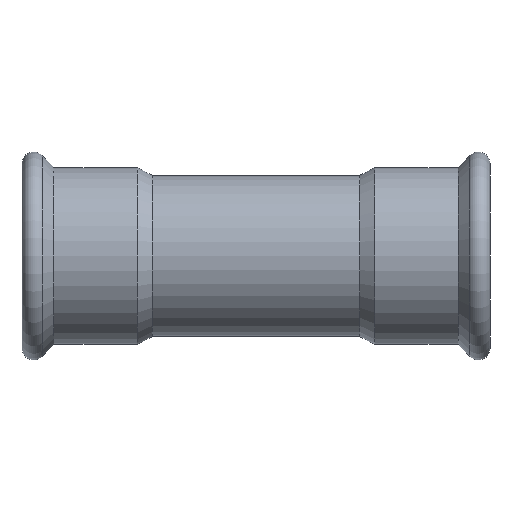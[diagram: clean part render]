
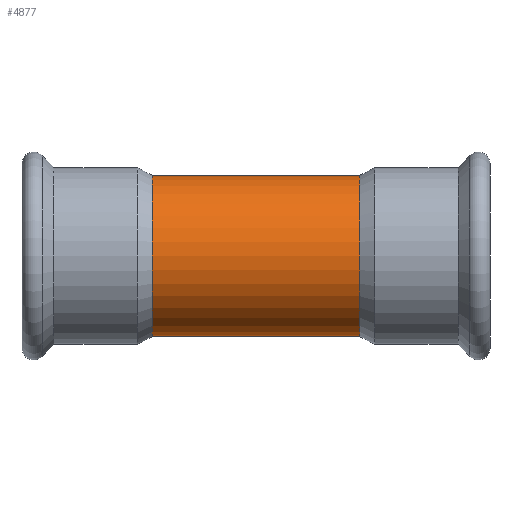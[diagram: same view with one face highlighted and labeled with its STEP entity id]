
A CAD part, front view. The second image highlights one B-rep face of the part: STEP entity #4877.
In plain terms, the highlighted cylindrical face has radius 20.65 mm (diameter 41.3 mm), a partial arc.
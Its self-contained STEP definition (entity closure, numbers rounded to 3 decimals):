
#107 = CARTESIAN_POINT ( 'NONE',  ( -26.626, 0., 20.65 ) ) ;
#544 = ORIENTED_EDGE ( 'NONE', *, *, #2192, .T. ) ;
#693 = DIRECTION ( 'NONE',  ( -1., 0., 0. ) ) ;
#1031 = EDGE_CURVE ( 'NONE', #4860, #4604, #3239, .T. ) ;
#1056 = ORIENTED_EDGE ( 'NONE', *, *, #1031, .T. ) ;
#1348 = EDGE_CURVE ( 'NONE', #5348, #2012, #2088, .T. ) ;
#1417 = CYLINDRICAL_SURFACE ( 'NONE', #3100, 20.65 ) ;
#1602 = DIRECTION ( 'NONE',  ( -1., 0., 0. ) ) ;
#1813 = CARTESIAN_POINT ( 'NONE',  ( -26.626, 0., 0. ) ) ;
#1883 = DIRECTION ( 'NONE',  ( -1., 0., 0. ) ) ;
#2012 = VERTEX_POINT ( 'NONE', #5599 ) ;
#2088 = LINE ( 'NONE', #4576, #5836 ) ;
#2192 = EDGE_CURVE ( 'NONE', #5348, #4860, #5121, .T. ) ;
#2331 = ORIENTED_EDGE ( 'NONE', *, *, #4837, .F. ) ;
#2797 = CARTESIAN_POINT ( 'NONE',  ( 26.626, 0., 0. ) ) ;
#3100 = AXIS2_PLACEMENT_3D ( 'NONE', #5026, #1883, #5139 ) ;
#3239 = LINE ( 'NONE', #4782, #5000 ) ;
#3568 = EDGE_LOOP ( 'NONE', ( #4117, #544, #1056, #2331 ) ) ;
#3650 = CIRCLE ( 'NONE', #4418, 20.65 ) ;
#4117 = ORIENTED_EDGE ( 'NONE', *, *, #1348, .F. ) ;
#4418 = AXIS2_PLACEMENT_3D ( 'NONE', #1813, #4478, #5437 ) ;
#4478 = DIRECTION ( 'NONE',  ( -1., 0., 0. ) ) ;
#4576 = CARTESIAN_POINT ( 'NONE',  ( 0., 0., -20.65 ) ) ;
#4604 = VERTEX_POINT ( 'NONE', #107 ) ;
#4782 = CARTESIAN_POINT ( 'NONE',  ( 0., 0., 20.65 ) ) ;
#4837 = EDGE_CURVE ( 'NONE', #2012, #4604, #3650, .T. ) ;
#4860 = VERTEX_POINT ( 'NONE', #6461 ) ;
#4877 = ADVANCED_FACE ( 'NONE', ( #5659 ), #1417, .T. ) ;
#4926 = CARTESIAN_POINT ( 'NONE',  ( 26.626, 0., -20.65 ) ) ;
#5000 = VECTOR ( 'NONE', #1602, 1000. ) ;
#5026 = CARTESIAN_POINT ( 'NONE',  ( 0., 0., 0. ) ) ;
#5121 = CIRCLE ( 'NONE', #5334, 20.65 ) ;
#5139 = DIRECTION ( 'NONE',  ( 0., 0., 1. ) ) ;
#5163 = DIRECTION ( 'NONE',  ( -1., 0., 0. ) ) ;
#5334 = AXIS2_PLACEMENT_3D ( 'NONE', #2797, #693, #6043 ) ;
#5348 = VERTEX_POINT ( 'NONE', #4926 ) ;
#5437 = DIRECTION ( 'NONE',  ( 0., 0., 1. ) ) ;
#5599 = CARTESIAN_POINT ( 'NONE',  ( -26.626, 0., -20.65 ) ) ;
#5659 = FACE_OUTER_BOUND ( 'NONE', #3568, .T. ) ;
#5836 = VECTOR ( 'NONE', #5163, 1000. ) ;
#6043 = DIRECTION ( 'NONE',  ( 0., 0., 1. ) ) ;
#6461 = CARTESIAN_POINT ( 'NONE',  ( 26.626, 0., 20.65 ) ) ;
